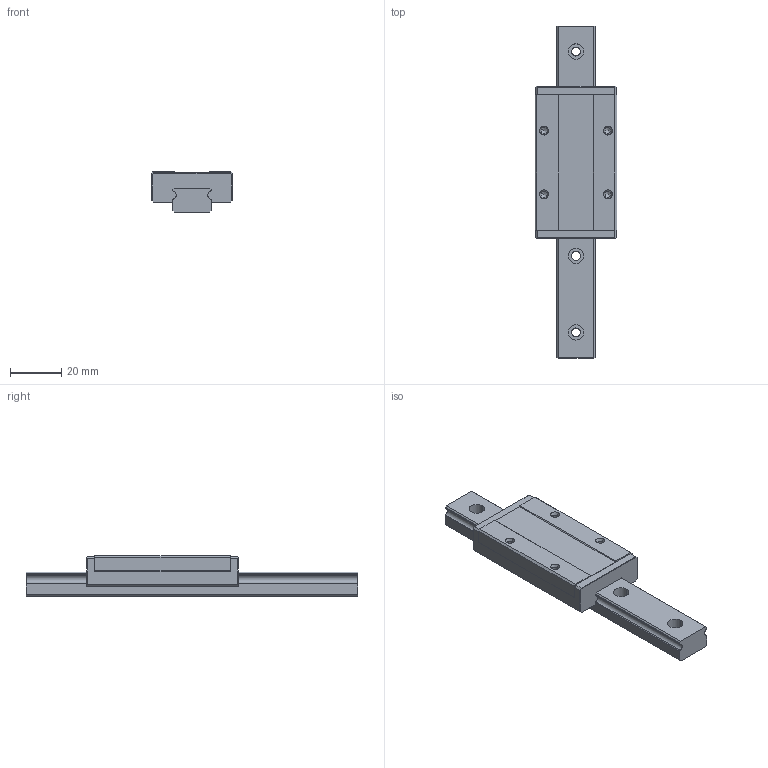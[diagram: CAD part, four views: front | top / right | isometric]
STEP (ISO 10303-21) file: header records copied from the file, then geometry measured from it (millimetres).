
FILE_DESCRIPTION( ( '' ), '1' );
FILE_NAME( 'V:\MSC\MODEL File\MAC catalog drawing\STEP\MSC15LM.stp', ' ', ( '' ), ( '' ), 'ACIS Interop R16', 'Kubotek KeyCreator V6.3.0 (0248)', ' ' );
FILE_SCHEMA( ( 'CONFIG_CONTROL_DESIGN' ) );
Length unit declared in the file: millimetre
Products named in the file (2): 1; 2
Bounding box: 32 x 130 x 16 mm (x, y, z)
Volume: 34577.9 mm3; surface area: 13865.9 mm2
Topology: 2 solids, 2 shells, 116 faces, 304 edges, 192 vertices
Faces by surface type: plane 64, cylinder 36, cone 16
Entity records: 3606 total; most frequent: DIRECTION 618, CARTESIAN_POINT 612, ORIENTED_EDGE 592, EDGE_CURVE 296, AXIS2_PLACEMENT_3D 206, LINE 206, VECTOR 206, VERTEX_POINT 192
